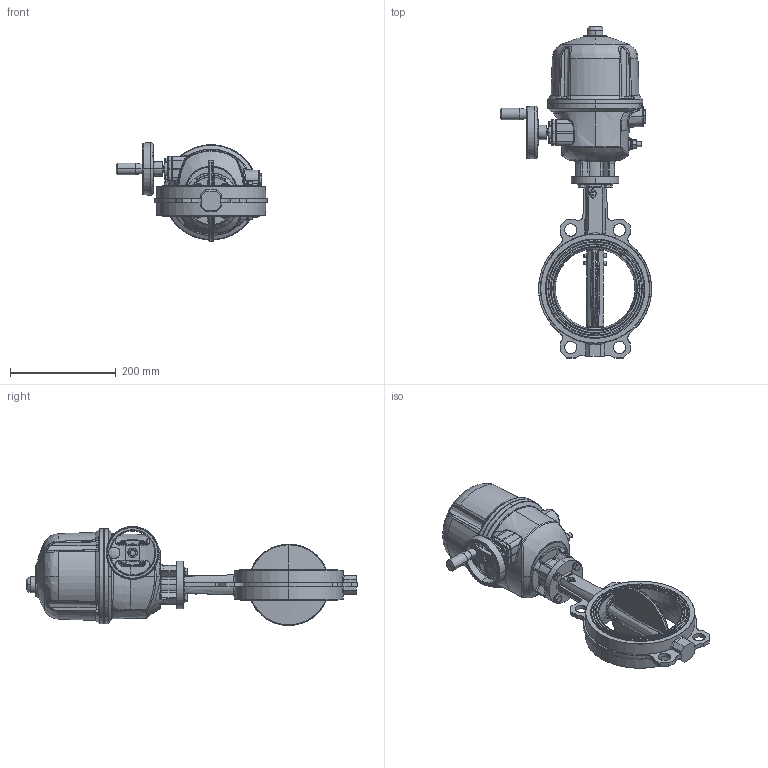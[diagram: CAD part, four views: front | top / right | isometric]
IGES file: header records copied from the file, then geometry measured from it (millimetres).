
Start section: SolidWorks IGES file using analytic representation for surfaces
Global section: file name: H:\BE FABRICATION\BE SERIE\VP\VP SERIE\F072 VPG\plan 3D\VPG-BX4\WAFER\DN150\VPG444X-BX4XX0150.igs; native system: SolidWorks 2020; preprocessor: SolidWorks 2020; author: k.gigout; date: 220920.115320; units: millimetre
Bounding box: 286.32 x 628.32 x 187.5 mm (x, y, z)
Surface area: 432458.8 mm2 (no closed solid volume)
Topology: 0 solids, 0 shells, 1045 faces, 20415 edges, 20376 vertices
Faces by surface type: bspline 718, revolution 327
